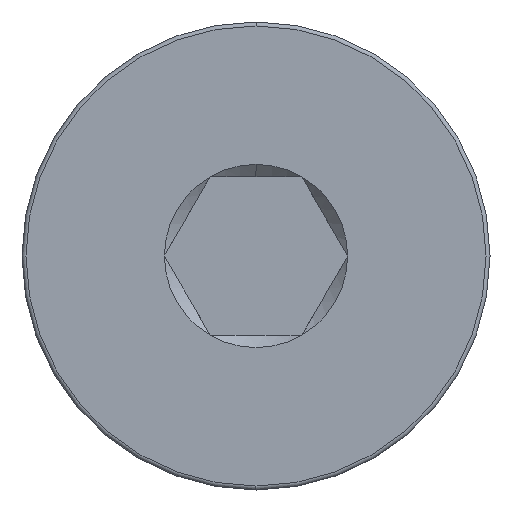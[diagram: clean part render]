
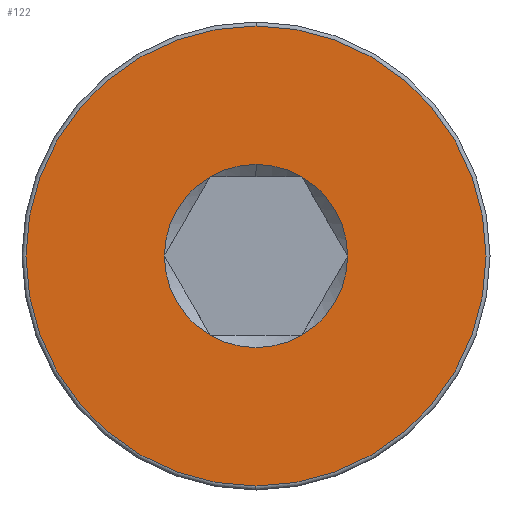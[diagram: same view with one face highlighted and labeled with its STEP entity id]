
A CAD part, left-side view. The second image highlights one B-rep face of the part: STEP entity #122.
In plain terms, the highlighted planar face has unit normal (-1, 0, 0).
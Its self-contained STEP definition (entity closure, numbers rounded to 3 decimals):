
#3 = ORIENTED_EDGE ( 'NONE', *, *, #432, .T. ) ;
#29 = VERTEX_POINT ( 'NONE', #623 ) ;
#30 = EDGE_CURVE ( 'NONE', #471, #554, #535, .T. ) ;
#40 = EDGE_CURVE ( 'NONE', #544, #29, #181, .T. ) ;
#49 = CARTESIAN_POINT ( 'NONE',  ( 0., 0., 0. ) ) ;
#52 = EDGE_CURVE ( 'NONE', #29, #99, #568, .T. ) ;
#53 = CIRCLE ( 'NONE', #157, 5.8 ) ;
#55 = CARTESIAN_POINT ( 'NONE',  ( 0., 0., 0. ) ) ;
#58 = ORIENTED_EDGE ( 'NONE', *, *, #30, .T. ) ;
#83 = DIRECTION ( 'NONE',  ( -1., 0., 0. ) ) ;
#94 = ORIENTED_EDGE ( 'NONE', *, *, #52, .T. ) ;
#99 = VERTEX_POINT ( 'NONE', #558 ) ;
#122 = ADVANCED_FACE ( 'NONE', ( #268, #563 ), #507, .T. ) ;
#126 = DIRECTION ( 'NONE',  ( 1., 0., 0. ) ) ;
#129 = CIRCLE ( 'NONE', #210, 2.309 ) ;
#157 = AXIS2_PLACEMENT_3D ( 'NONE', #218, #459, #628 ) ;
#166 = ORIENTED_EDGE ( 'NONE', *, *, #212, .T. ) ;
#175 = DIRECTION ( 'NONE',  ( 0., 0., -1. ) ) ;
#179 = ORIENTED_EDGE ( 'NONE', *, *, #788, .T. ) ;
#181 = CIRCLE ( 'NONE', #450, 2.309 ) ;
#194 = DIRECTION ( 'NONE',  ( -1., 0., 0. ) ) ;
#196 = AXIS2_PLACEMENT_3D ( 'NONE', #692, #747, #673 ) ;
#203 = CARTESIAN_POINT ( 'NONE',  ( 0., 0., 0. ) ) ;
#210 = AXIS2_PLACEMENT_3D ( 'NONE', #574, #582, #387 ) ;
#212 = EDGE_CURVE ( 'NONE', #329, #235, #620, .T. ) ;
#216 = VERTEX_POINT ( 'NONE', #698 ) ;
#218 = CARTESIAN_POINT ( 'NONE',  ( 0., 0., 0. ) ) ;
#222 = ORIENTED_EDGE ( 'NONE', *, *, #772, .T. ) ;
#229 = EDGE_CURVE ( 'NONE', #99, #329, #129, .T. ) ;
#231 = DIRECTION ( 'NONE',  ( 1., 0., 0. ) ) ;
#233 = AXIS2_PLACEMENT_3D ( 'NONE', #546, #194, #538 ) ;
#235 = VERTEX_POINT ( 'NONE', #518 ) ;
#237 = CARTESIAN_POINT ( 'NONE',  ( 0., 0., 0. ) ) ;
#243 = EDGE_CURVE ( 'NONE', #554, #471, #53, .T. ) ;
#252 = ORIENTED_EDGE ( 'NONE', *, *, #243, .T. ) ;
#256 = CARTESIAN_POINT ( 'NONE',  ( 0., 0., 5.8 ) ) ;
#265 = CARTESIAN_POINT ( 'NONE',  ( 0., 0., 0. ) ) ;
#268 = FACE_OUTER_BOUND ( 'NONE', #496, .T. ) ;
#271 = DIRECTION ( 'NONE',  ( 0., 0., -1. ) ) ;
#320 = CARTESIAN_POINT ( 'NONE',  ( 0., 1.155, 2. ) ) ;
#327 = AXIS2_PLACEMENT_3D ( 'NONE', #55, #126, #367 ) ;
#329 = VERTEX_POINT ( 'NONE', #339 ) ;
#339 = CARTESIAN_POINT ( 'NONE',  ( 0., -2.309, 0. ) ) ;
#357 = CARTESIAN_POINT ( 'NONE',  ( 0., 0., 0. ) ) ;
#361 = AXIS2_PLACEMENT_3D ( 'NONE', #357, #752, #682 ) ;
#367 = DIRECTION ( 'NONE',  ( 0., 0., -1. ) ) ;
#387 = DIRECTION ( 'NONE',  ( 0., 0., -1. ) ) ;
#395 = DIRECTION ( 'NONE',  ( 1., 0., 0. ) ) ;
#402 = AXIS2_PLACEMENT_3D ( 'NONE', #203, #395, #271 ) ;
#419 = DIRECTION ( 'NONE',  ( 0., 0., -1. ) ) ;
#432 = EDGE_CURVE ( 'NONE', #216, #544, #555, .T. ) ;
#446 = DIRECTION ( 'NONE',  ( 0., 0., 1. ) ) ;
#450 = AXIS2_PLACEMENT_3D ( 'NONE', #237, #797, #419 ) ;
#459 = DIRECTION ( 'NONE',  ( -1., 0., 0. ) ) ;
#471 = VERTEX_POINT ( 'NONE', #737 ) ;
#485 = CARTESIAN_POINT ( 'NONE',  ( 0., 1.155, -2. ) ) ;
#496 = EDGE_LOOP ( 'NONE', ( #252, #58 ) ) ;
#498 = AXIS2_PLACEMENT_3D ( 'NONE', #265, #83, #446 ) ;
#507 = PLANE ( 'NONE',  #498 ) ;
#518 = CARTESIAN_POINT ( 'NONE',  ( 0., -1.155, -2. ) ) ;
#519 = ORIENTED_EDGE ( 'NONE', *, *, #40, .T. ) ;
#535 = CIRCLE ( 'NONE', #233, 5.8 ) ;
#538 = DIRECTION ( 'NONE',  ( 0., 0., 1. ) ) ;
#544 = VERTEX_POINT ( 'NONE', #320 ) ;
#546 = CARTESIAN_POINT ( 'NONE',  ( 0., 0., 0. ) ) ;
#554 = VERTEX_POINT ( 'NONE', #256 ) ;
#555 = CIRCLE ( 'NONE', #642, 2.309 ) ;
#558 = CARTESIAN_POINT ( 'NONE',  ( 0., -1.155, 2. ) ) ;
#563 = FACE_BOUND ( 'NONE', #754, .T. ) ;
#568 = CIRCLE ( 'NONE', #196, 2.309 ) ;
#574 = CARTESIAN_POINT ( 'NONE',  ( 0., 0., 0. ) ) ;
#582 = DIRECTION ( 'NONE',  ( 1., 0., 0. ) ) ;
#620 = CIRCLE ( 'NONE', #402, 2.309 ) ;
#623 = CARTESIAN_POINT ( 'NONE',  ( 0., 0., 2.309 ) ) ;
#628 = DIRECTION ( 'NONE',  ( 0., 0., 1. ) ) ;
#642 = AXIS2_PLACEMENT_3D ( 'NONE', #49, #231, #175 ) ;
#673 = DIRECTION ( 'NONE',  ( 0., 0., -1. ) ) ;
#681 = CIRCLE ( 'NONE', #327, 2.309 ) ;
#682 = DIRECTION ( 'NONE',  ( 0., 0., -1. ) ) ;
#692 = CARTESIAN_POINT ( 'NONE',  ( 0., 0., 0. ) ) ;
#698 = CARTESIAN_POINT ( 'NONE',  ( 0., 2.309, 0. ) ) ;
#711 = CIRCLE ( 'NONE', #361, 2.309 ) ;
#721 = ORIENTED_EDGE ( 'NONE', *, *, #229, .T. ) ;
#737 = CARTESIAN_POINT ( 'NONE',  ( 0., 0., -5.8 ) ) ;
#747 = DIRECTION ( 'NONE',  ( 1., 0., 0. ) ) ;
#752 = DIRECTION ( 'NONE',  ( 1., 0., 0. ) ) ;
#754 = EDGE_LOOP ( 'NONE', ( #3, #519, #94, #721, #166, #222, #179 ) ) ;
#772 = EDGE_CURVE ( 'NONE', #235, #777, #711, .T. ) ;
#777 = VERTEX_POINT ( 'NONE', #485 ) ;
#788 = EDGE_CURVE ( 'NONE', #777, #216, #681, .T. ) ;
#797 = DIRECTION ( 'NONE',  ( 1., 0., 0. ) ) ;
